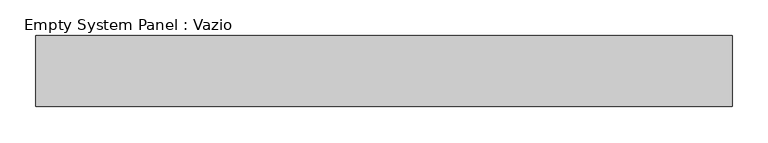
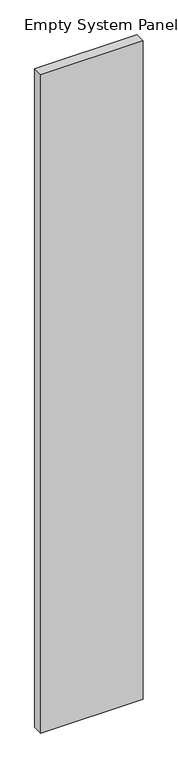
"""IFC4 building model written with IfcOpenShell, lengths in millimetres: plate geometry, Empty System Panel : Vazio."""

from ifc_helpers import new_model, si_unit, origin, origin_with_axes, place, context, project, spatial, polyline, outline, extrude, source, transform, mapped, element, save


def empty_system_panel_vazio_4c0d4a5d(model_context):
    return source(origin(), model_context, "Body", "SweptSolid", [
        extrude(outline(polyline([(490.0, 50.0), (-490.0, 50.0), (-490.0, 150.0), (490.0, 150.0), (490.0, 50.0)])), origin_with_axes(), (0.0, 0.0, 1.0), 6670.0082767),
    ])


if __name__ == "__main__":
    model = new_model("IFC4")
    model_context = context("Model", 3, world=origin())
    ifc_project = project(units=[si_unit("LENGTHUNIT", "METRE", prefix="MILLI")], contexts=[model_context])
    site = spatial("IfcSite", under=ifc_project)
    building = spatial("IfcBuilding", under=site)
    placement = place(None, origin())
    empty_system_panel_vazio_shape = empty_system_panel_vazio_4c0d4a5d(model_context)
    element("IfcPlate", 1, ObjectType="Empty System Panel : Vazio", at=placement, inside=building, context=model_context, shape_type="MappedRepresentation", body=[
        mapped(empty_system_panel_vazio_shape, transform((0.0, 0.0, 0.0), x_axis=(1.0, 0.0, 0.0), y_axis=(0.0, 1.0, 0.0), z_axis=(0.0, 0.0, 1.0))),
    ])
    save(model, "model.ifc")
